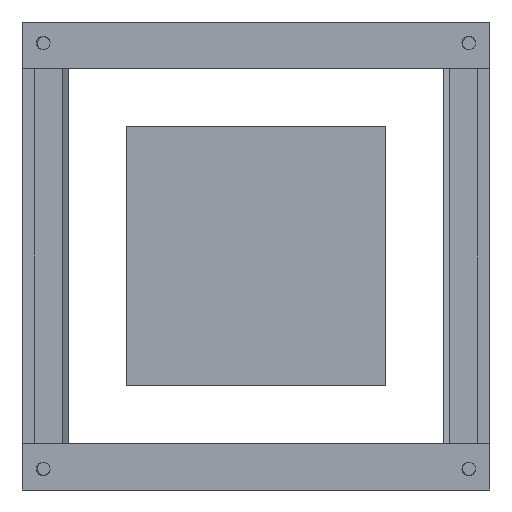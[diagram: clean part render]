
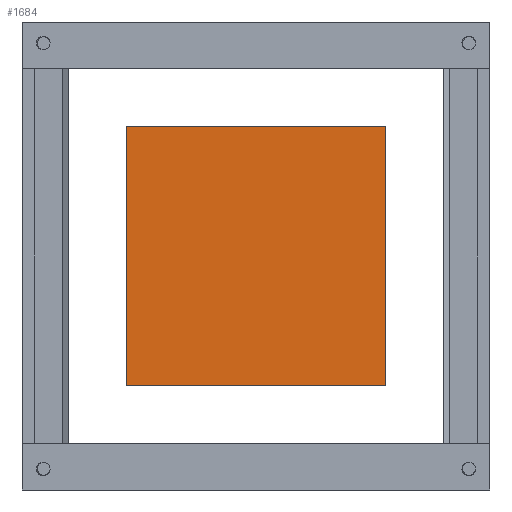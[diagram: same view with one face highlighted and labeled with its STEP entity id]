
A CAD part, front view. The second image highlights one B-rep face of the part: STEP entity #1684.
In plain terms, the highlighted planar face has unit normal (0, -1, 0) as drawn and (0, 0, -1) by its records, which use the part's own axes.
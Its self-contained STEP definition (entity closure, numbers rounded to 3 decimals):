
#1631 = EDGE_CURVE ( 'NONE', #1644, #1632, #2378, .T. ) ;
#1632 = VERTEX_POINT ( 'NONE', #2374 ) ;
#1634 = ORIENTED_EDGE ( 'NONE', *, *, #1631, .F. ) ;
#1642 = EDGE_CURVE ( 'NONE', #1643, #1644, #2426, .T. ) ;
#1643 = VERTEX_POINT ( 'NONE', #2422 ) ;
#1644 = VERTEX_POINT ( 'NONE', #2421 ) ;
#1655 = EDGE_CURVE ( 'NONE', #1694, #1643, #2466, .T. ) ;
#1684 = ADVANCED_FACE ( 'NONE', ( #2481 ), #2480, .F. ) ;
#1685 = EDGE_LOOP ( 'NONE', ( #1686, #1687, #1688, #1634 ) ) ;
#1686 = ORIENTED_EDGE ( 'NONE', *, *, #1642, .F. ) ;
#1687 = ORIENTED_EDGE ( 'NONE', *, *, #1655, .F. ) ;
#1688 = ORIENTED_EDGE ( 'NONE', *, *, #1693, .F. ) ;
#1693 = EDGE_CURVE ( 'NONE', #1632, #1694, #2534, .T. ) ;
#1694 = VERTEX_POINT ( 'NONE', #2530 ) ;
#2374 = CARTESIAN_POINT ( 'NONE',  ( -40.21, 40.21, -2. ) ) ;
#2375 = DIRECTION ( 'NONE',  ( -1., 0., 0. ) ) ;
#2376 = VECTOR ( 'NONE', #2375, 1000. ) ;
#2377 = CARTESIAN_POINT ( 'NONE',  ( -40.21, 40.21, -2. ) ) ;
#2378 = LINE ( 'NONE', #2377, #2376 ) ;
#2421 = CARTESIAN_POINT ( 'NONE',  ( 40.21, 40.21, -2. ) ) ;
#2422 = CARTESIAN_POINT ( 'NONE',  ( 40.21, -40.21, -2. ) ) ;
#2423 = DIRECTION ( 'NONE',  ( 0., 1., 0. ) ) ;
#2424 = VECTOR ( 'NONE', #2423, 1000. ) ;
#2425 = CARTESIAN_POINT ( 'NONE',  ( 40.21, 40.21, -2. ) ) ;
#2426 = LINE ( 'NONE', #2425, #2424 ) ;
#2463 = DIRECTION ( 'NONE',  ( 1., 0., 0. ) ) ;
#2464 = VECTOR ( 'NONE', #2463, 1000. ) ;
#2465 = CARTESIAN_POINT ( 'NONE',  ( -40.21, -40.21, -2. ) ) ;
#2466 = LINE ( 'NONE', #2465, #2464 ) ;
#2476 = DIRECTION ( 'NONE',  ( 1., 0., 0. ) ) ;
#2477 = DIRECTION ( 'NONE',  ( 0., 0., 1. ) ) ;
#2478 = CARTESIAN_POINT ( 'NONE',  ( 40.21, 40.21, -2. ) ) ;
#2479 = AXIS2_PLACEMENT_3D ( 'NONE', #2478, #2477, #2476 ) ;
#2480 = PLANE ( 'NONE',  #2479 ) ;
#2481 = FACE_OUTER_BOUND ( 'NONE', #1685, .T. ) ;
#2530 = CARTESIAN_POINT ( 'NONE',  ( -40.21, -40.21, -2. ) ) ;
#2531 = DIRECTION ( 'NONE',  ( 0., -1., 0. ) ) ;
#2532 = VECTOR ( 'NONE', #2531, 1000. ) ;
#2533 = CARTESIAN_POINT ( 'NONE',  ( -40.21, 40.21, -2. ) ) ;
#2534 = LINE ( 'NONE', #2533, #2532 ) ;
